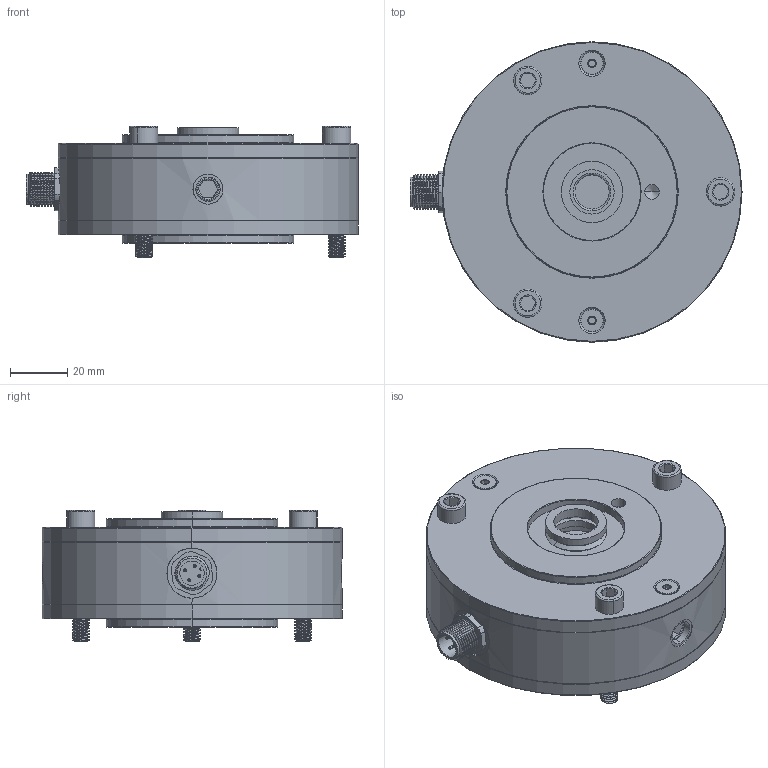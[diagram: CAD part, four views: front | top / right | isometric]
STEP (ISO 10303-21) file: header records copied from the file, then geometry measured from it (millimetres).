
FILE_DESCRIPTION (( 'STEP AP203' ), '1' );
FILE_NAME ('OWL112 Ø105xØ60x32.STEP', '2013-02-23T15:29:55', ( 'OS' ), ( 'Microsoft' ), 'SwSTEP 2.0', 'SolidWorks 2012', '' );
FILE_SCHEMA (( 'CONFIG_CONTROL_DESIGN' ));
Length unit declared in the file: millimetre
Products named in the file (37): 21; 20; 19; 18; 17; 16; 15; 14; 13; 12; 11; 10; 9; 8; 7; 6; 5; 4; 3; 2; 1; 90005xyz OWL112 Back Cover Ø60; 90005xyz OWL112 Front Cover Ø60; Beam F112-Dummy; OWL112 Ø105xØ60x32; Låsering Udv Ø12_047100_12-mattssons; 16 VA R; Unbraco M6 x 40; M10 x 20 DIN915; 0472_0_Ø32-mattssons_0472_0_32-mattssons; Unbraco M4 x 10; M12 R鷨 med indsats; M12 x 1 NV14 x 2; 90080023 Connec indsats M12 43-01338; 90080022 M12 Adaptor R鷨; INAFAG 1201; 22
Assembly tree (43 placements, depth 3):
  OWL112 Ø105xØ60x32
    Beam F112-Dummy
    90005xyz OWL112 Front Cover Ø60
    90005xyz OWL112 Back Cover Ø60
    INAFAG 1201
      1
      2
      3
      4
      5
      6
      7
      8
      9
      10
      11
      12
      13
      14
      15
      16
      17
      18
      19
      20
      21
      22
    M12 R鷨 med indsats
      90080022 M12 Adaptor R鷨
      90080023 Connec indsats M12 43-01338
      M12 x 1 NV14 x 2
    Unbraco M4 x 10  x4
    0472_0_Ø32-mattssons_0472_0_32-mattssons  x2
    M10 x 20 DIN915  x2
    Unbraco M6 x 40  x3
    16 VA R
    Låsering Udv Ø12_047100_12-mattssons
Bounding box: 116.2 x 105 x 46 mm (x, y, z)
Volume: 241258 mm3; surface area: 98070.7 mm2
Topology: 42 solids, 42 shells, 850 faces, 2181 edges, 1360 vertices
Faces by surface type: cylinder 487, plane 151, cone 80, torus 66, bspline 66
Entity records: 27819 total; most frequent: CARTESIAN_POINT 11512, ORIENTED_EDGE 2590, DIRECTION 2567, EDGE_CURVE 1295, AXIS2_PLACEMENT_3D 1072, VERTEX_POINT 848, EDGE_LOOP 631, CIRCLE 547
